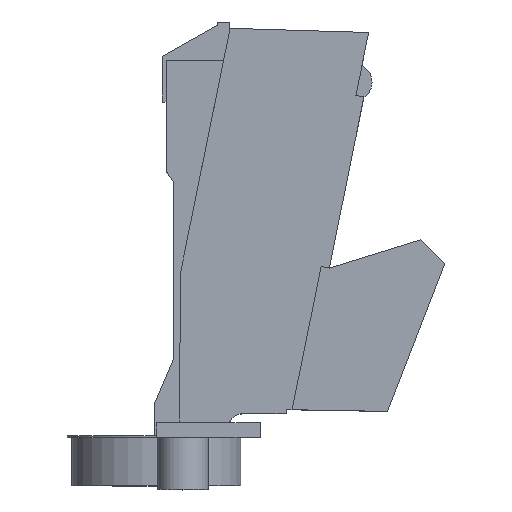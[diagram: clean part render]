
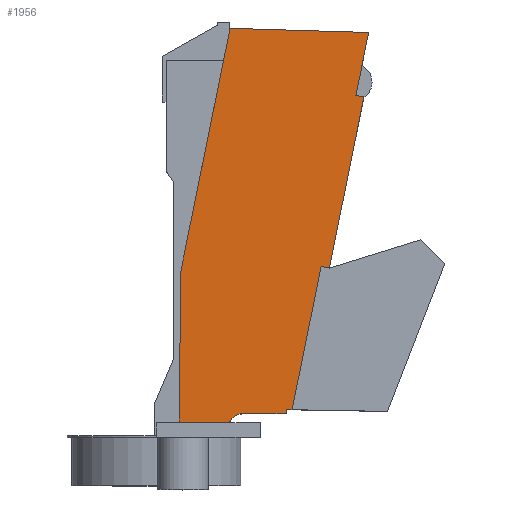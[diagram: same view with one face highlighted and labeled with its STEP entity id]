
A CAD part, top view. The second image highlights one B-rep face of the part: STEP entity #1956.
In plain terms, the highlighted planar face has unit normal (0, 0, 1).
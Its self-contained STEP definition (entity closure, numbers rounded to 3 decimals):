
#20 = CARTESIAN_POINT ( 'NONE',  ( 45.06, 38.462, 12.1 ) ) ;
#36 = ORIENTED_EDGE ( 'NONE', *, *, #736, .T. ) ;
#56 = AXIS2_PLACEMENT_3D ( 'NONE', #1394, #1088, #254 ) ;
#71 = ORIENTED_EDGE ( 'NONE', *, *, #77, .F. ) ;
#77 = EDGE_CURVE ( 'NONE', #903, #1555, #313, .T. ) ;
#98 = ORIENTED_EDGE ( 'NONE', *, *, #205, .T. ) ;
#159 = LINE ( 'NONE', #1921, #1003 ) ;
#168 = DIRECTION ( 'NONE',  ( 0.98, -0.199, 0. ) ) ;
#173 = ORIENTED_EDGE ( 'NONE', *, *, #1526, .F. ) ;
#201 = DIRECTION ( 'NONE',  ( 0.199, 0.98, 0. ) ) ;
#203 = LINE ( 'NONE', #1468, #1401 ) ;
#205 = EDGE_CURVE ( 'NONE', #844, #370, #825, .T. ) ;
#213 = CARTESIAN_POINT ( 'NONE',  ( 20.335, -33.58, 12.1 ) ) ;
#218 = DIRECTION ( 'NONE',  ( -0.199, -0.98, 0. ) ) ;
#222 = VECTOR ( 'NONE', #985, 1000. ) ;
#243 = VERTEX_POINT ( 'NONE', #1338 ) ;
#247 = CARTESIAN_POINT ( 'NONE',  ( 38.299, -3.408, 12.1 ) ) ;
#254 = DIRECTION ( 'NONE',  ( 1., 0., 0. ) ) ;
#275 = CARTESIAN_POINT ( 'NONE',  ( 17.765, 46.272, 12.1 ) ) ;
#292 = VECTOR ( 'NONE', #1465, 1000. ) ;
#313 = LINE ( 'NONE', #959, #318 ) ;
#318 = VECTOR ( 'NONE', #168, 1000. ) ;
#360 = LINE ( 'NONE', #20, #1001 ) ;
#362 = VERTEX_POINT ( 'NONE', #247 ) ;
#370 = VERTEX_POINT ( 'NONE', #1725 ) ;
#378 = CARTESIAN_POINT ( 'NONE',  ( 29.38, -33.48, 12.1 ) ) ;
#396 = VECTOR ( 'NONE', #218, 1000. ) ;
#430 = VECTOR ( 'NONE', #1219, 1000. ) ;
#490 = CARTESIAN_POINT ( 'NONE',  ( 29.38, -33.48, 12.1 ) ) ;
#513 = VERTEX_POINT ( 'NONE', #490 ) ;
#555 = DIRECTION ( 'NONE',  ( 1., 0., 0. ) ) ;
#577 = CARTESIAN_POINT ( 'NONE',  ( 38.299, -3.408, 12.1 ) ) ;
#594 = VECTOR ( 'NONE', #811, 1000. ) ;
#604 = ORIENTED_EDGE ( 'NONE', *, *, #1453, .T. ) ;
#605 = CARTESIAN_POINT ( 'NONE',  ( 17.569, -35.5, 12.1 ) ) ;
#619 = VERTEX_POINT ( 'NONE', #824 ) ;
#626 = CARTESIAN_POINT ( 'NONE',  ( 43.828, 32.389, 12.1 ) ) ;
#630 = VERTEX_POINT ( 'NONE', #1986 ) ;
#642 = EDGE_CURVE ( 'NONE', #370, #513, #1783, .T. ) ;
#663 = VECTOR ( 'NONE', #2011, 1000. ) ;
#670 = EDGE_CURVE ( 'NONE', #805, #243, #203, .T. ) ;
#681 = VERTEX_POINT ( 'NONE', #1806 ) ;
#683 = DIRECTION ( 'NONE',  ( 0.199, 0.98, 0. ) ) ;
#707 = LINE ( 'NONE', #577, #396 ) ;
#724 = LINE ( 'NONE', #378, #663 ) ;
#736 = EDGE_CURVE ( 'NONE', #2006, #630, #1563, .T. ) ;
#795 = AXIS2_PLACEMENT_3D ( 'NONE', #1472, #859, #555 ) ;
#805 = VERTEX_POINT ( 'NONE', #1450 ) ;
#811 = DIRECTION ( 'NONE',  ( 1., -0.017, 0. ) ) ;
#824 = CARTESIAN_POINT ( 'NONE',  ( 30.613, -32.737, 12.1 ) ) ;
#825 = CIRCLE ( 'NONE', #795, 3. ) ;
#844 = VERTEX_POINT ( 'NONE', #605 ) ;
#859 = DIRECTION ( 'NONE',  ( 0., 0., -1. ) ) ;
#888 = PLANE ( 'NONE',  #56 ) ;
#889 = ORIENTED_EDGE ( 'NONE', *, *, #670, .T. ) ;
#903 = VERTEX_POINT ( 'NONE', #626 ) ;
#959 = CARTESIAN_POINT ( 'NONE',  ( 8.032, 39.652, 12.1 ) ) ;
#985 = DIRECTION ( 'NONE',  ( 1., 0.011, 0. ) ) ;
#1001 = VECTOR ( 'NONE', #201, 1000. ) ;
#1003 = VECTOR ( 'NONE', #1254, 1000. ) ;
#1023 = ORIENTED_EDGE ( 'NONE', *, *, #1042, .T. ) ;
#1042 = EDGE_CURVE ( 'NONE', #1624, #362, #1942, .T. ) ;
#1052 = EDGE_CURVE ( 'NONE', #903, #2006, #360, .T. ) ;
#1061 = ORIENTED_EDGE ( 'NONE', *, *, #642, .T. ) ;
#1070 = FACE_OUTER_BOUND ( 'NONE', #1662, .T. ) ;
#1088 = DIRECTION ( 'NONE',  ( 0., 0., 1. ) ) ;
#1134 = VECTOR ( 'NONE', #683, 1000. ) ;
#1156 = CARTESIAN_POINT ( 'NONE',  ( 45.06, 38.462, 12.1 ) ) ;
#1204 = DIRECTION ( 'NONE',  ( -1., 0.03, 0. ) ) ;
#1219 = DIRECTION ( 'NONE',  ( -1., 0., 0. ) ) ;
#1254 = DIRECTION ( 'NONE',  ( -0.199, -0.98, 0. ) ) ;
#1338 = CARTESIAN_POINT ( 'NONE',  ( 7.242, -35.5, 12.1 ) ) ;
#1350 = CARTESIAN_POINT ( 'NONE',  ( 20.368, -35.5, 12.1 ) ) ;
#1380 = ORIENTED_EDGE ( 'NONE', *, *, #1052, .T. ) ;
#1394 = CARTESIAN_POINT ( 'NONE',  ( 20.368, -36.58, 12.1 ) ) ;
#1401 = VECTOR ( 'NONE', #1954, 1000. ) ;
#1408 = CARTESIAN_POINT ( 'NONE',  ( 46.47, 45.41, 12.1 ) ) ;
#1420 = EDGE_CURVE ( 'NONE', #681, #619, #1968, .T. ) ;
#1450 = CARTESIAN_POINT ( 'NONE',  ( 7.52, -4.22, 12.1 ) ) ;
#1453 = EDGE_CURVE ( 'NONE', #619, #1624, #1632, .T. ) ;
#1465 = DIRECTION ( 'NONE',  ( 0.98, -0.199, 0. ) ) ;
#1468 = CARTESIAN_POINT ( 'NONE',  ( 7.215, -38.5, 12.1 ) ) ;
#1472 = CARTESIAN_POINT ( 'NONE',  ( 20.368, -36.58, 12.1 ) ) ;
#1516 = EDGE_CURVE ( 'NONE', #1555, #362, #707, .T. ) ;
#1521 = ORIENTED_EDGE ( 'NONE', *, *, #1571, .T. ) ;
#1526 = EDGE_CURVE ( 'NONE', #844, #243, #1820, .T. ) ;
#1536 = CARTESIAN_POINT ( 'NONE',  ( 45.494, 32.051, 12.1 ) ) ;
#1555 = VERTEX_POINT ( 'NONE', #1536 ) ;
#1563 = LINE ( 'NONE', #275, #1837 ) ;
#1571 = EDGE_CURVE ( 'NONE', #513, #681, #724, .T. ) ;
#1624 = VERTEX_POINT ( 'NONE', #2029 ) ;
#1632 = LINE ( 'NONE', #1156, #1134 ) ;
#1649 = CARTESIAN_POINT ( 'NONE',  ( 0.838, 4.193, 12.1 ) ) ;
#1662 = EDGE_LOOP ( 'NONE', ( #173, #98, #1061, #1521, #1785, #604, #1023, #1882, #71, #1380, #36, #1878, #889 ) ) ;
#1695 = EDGE_CURVE ( 'NONE', #630, #805, #159, .T. ) ;
#1725 = CARTESIAN_POINT ( 'NONE',  ( 20.335, -33.58, 12.1 ) ) ;
#1783 = LINE ( 'NONE', #213, #222 ) ;
#1785 = ORIENTED_EDGE ( 'NONE', *, *, #1420, .T. ) ;
#1806 = CARTESIAN_POINT ( 'NONE',  ( 29.38, -32.715, 12.1 ) ) ;
#1820 = LINE ( 'NONE', #1350, #430 ) ;
#1837 = VECTOR ( 'NONE', #1204, 1000. ) ;
#1878 = ORIENTED_EDGE ( 'NONE', *, *, #1695, .T. ) ;
#1882 = ORIENTED_EDGE ( 'NONE', *, *, #1516, .F. ) ;
#1921 = CARTESIAN_POINT ( 'NONE',  ( 17.765, 46.272, 12.1 ) ) ;
#1942 = LINE ( 'NONE', #1649, #292 ) ;
#1949 = CARTESIAN_POINT ( 'NONE',  ( 29.38, -32.715, 12.1 ) ) ;
#1954 = DIRECTION ( 'NONE',  ( -0.009, -1., 0. ) ) ;
#1956 = ADVANCED_FACE ( 'NONE', ( #1070 ), #888, .T. ) ;
#1968 = LINE ( 'NONE', #1949, #594 ) ;
#1986 = CARTESIAN_POINT ( 'NONE',  ( 17.765, 46.272, 12.1 ) ) ;
#2006 = VERTEX_POINT ( 'NONE', #1408 ) ;
#2011 = DIRECTION ( 'NONE',  ( 0., 1., 0. ) ) ;
#2029 = CARTESIAN_POINT ( 'NONE',  ( 36.633, -3.07, 12.1 ) ) ;
